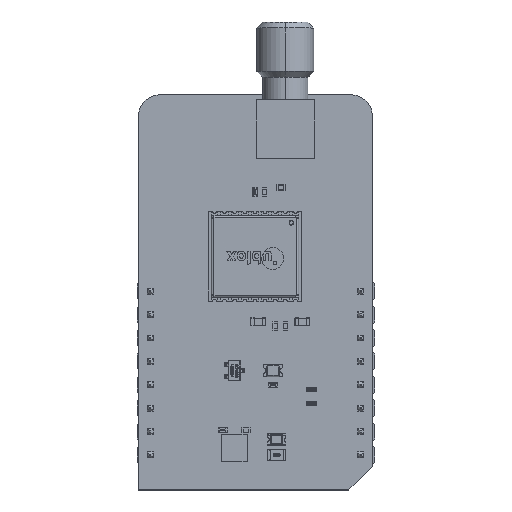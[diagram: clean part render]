
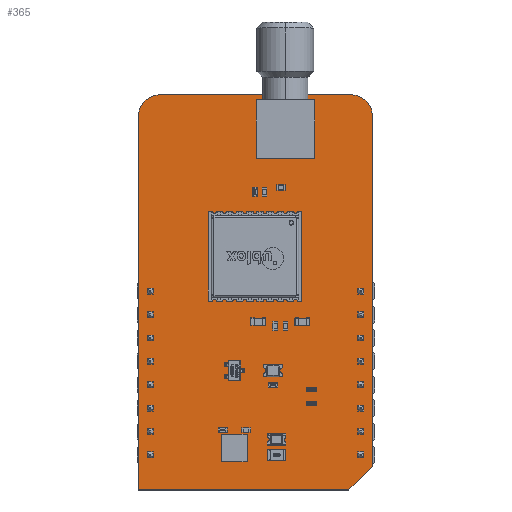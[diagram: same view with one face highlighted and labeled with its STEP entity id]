
A CAD part, top view. The second image highlights one B-rep face of the part: STEP entity #365.
In plain terms, the highlighted planar face has unit normal (0, 0, 1).
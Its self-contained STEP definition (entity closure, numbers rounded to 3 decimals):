
#136 = VERTEX_POINT('',#137);
#137 = CARTESIAN_POINT('',(-1.27,-3.81,1.65));
#143 = EDGE_CURVE('',#136,#144,#146,.T.);
#144 = VERTEX_POINT('',#145);
#145 = CARTESIAN_POINT('',(-1.27,36.83,1.65));
#146 = LINE('',#147,#148);
#147 = CARTESIAN_POINT('',(-1.27,-3.81,1.65));
#148 = VECTOR('',#149,1.);
#149 = DIRECTION('',(0.,1.,0.));
#174 = EDGE_CURVE('',#144,#175,#177,.T.);
#175 = VERTEX_POINT('',#176);
#176 = CARTESIAN_POINT('',(1.016,39.116,1.65));
#177 = CIRCLE('',#178,2.288);
#178 = AXIS2_PLACEMENT_3D('',#179,#180,#181);
#179 = CARTESIAN_POINT('',(1.018,36.828,1.65));
#180 = DIRECTION('',(0.,0.,-1.));
#181 = DIRECTION('',(-1.,0.001,0.));
#207 = EDGE_CURVE('',#175,#208,#210,.T.);
#208 = VERTEX_POINT('',#209);
#209 = CARTESIAN_POINT('',(21.844,39.116,1.65));
#210 = LINE('',#211,#212);
#211 = CARTESIAN_POINT('',(1.016,39.116,1.65));
#212 = VECTOR('',#213,1.);
#213 = DIRECTION('',(1.,0.,0.));
#238 = EDGE_CURVE('',#208,#239,#241,.T.);
#239 = VERTEX_POINT('',#240);
#240 = CARTESIAN_POINT('',(24.13,36.83,1.65));
#241 = CIRCLE('',#242,2.288);
#242 = AXIS2_PLACEMENT_3D('',#243,#244,#245);
#243 = CARTESIAN_POINT('',(21.842,36.828,1.65));
#244 = DIRECTION('',(0.,0.,-1.));
#245 = DIRECTION('',(0.001,1.,0.));
#271 = EDGE_CURVE('',#239,#272,#274,.T.);
#272 = VERTEX_POINT('',#273);
#273 = CARTESIAN_POINT('',(24.13,-1.27,1.65));
#274 = LINE('',#275,#276);
#275 = CARTESIAN_POINT('',(24.13,36.83,1.65));
#276 = VECTOR('',#277,1.);
#277 = DIRECTION('',(0.,-1.,0.));
#302 = EDGE_CURVE('',#272,#303,#305,.T.);
#303 = VERTEX_POINT('',#304);
#304 = CARTESIAN_POINT('',(21.59,-3.81,1.65));
#305 = LINE('',#306,#307);
#306 = CARTESIAN_POINT('',(24.13,-1.27,1.65));
#307 = VECTOR('',#308,1.);
#308 = DIRECTION('',(-0.707,-0.707,0.));
#333 = EDGE_CURVE('',#303,#136,#334,.T.);
#334 = LINE('',#335,#336);
#335 = CARTESIAN_POINT('',(21.59,-3.81,1.65));
#336 = VECTOR('',#337,1.);
#337 = DIRECTION('',(-1.,0.,0.));
#365 = ADVANCED_FACE('',(#366),#375,.F.);
#366 = FACE_BOUND('',#367,.F.);
#367 = EDGE_LOOP('',(#368,#369,#370,#371,#372,#373,#374));
#368 = ORIENTED_EDGE('',*,*,#143,.T.);
#369 = ORIENTED_EDGE('',*,*,#174,.T.);
#370 = ORIENTED_EDGE('',*,*,#207,.T.);
#371 = ORIENTED_EDGE('',*,*,#238,.T.);
#372 = ORIENTED_EDGE('',*,*,#271,.T.);
#373 = ORIENTED_EDGE('',*,*,#302,.T.);
#374 = ORIENTED_EDGE('',*,*,#333,.T.);
#375 = PLANE('',#376);
#376 = AXIS2_PLACEMENT_3D('',#377,#378,#379);
#377 = CARTESIAN_POINT('',(11.278,17.566,1.65));
#378 = DIRECTION('',(-0.,-0.,-1.));
#379 = DIRECTION('',(-1.,0.,0.));
